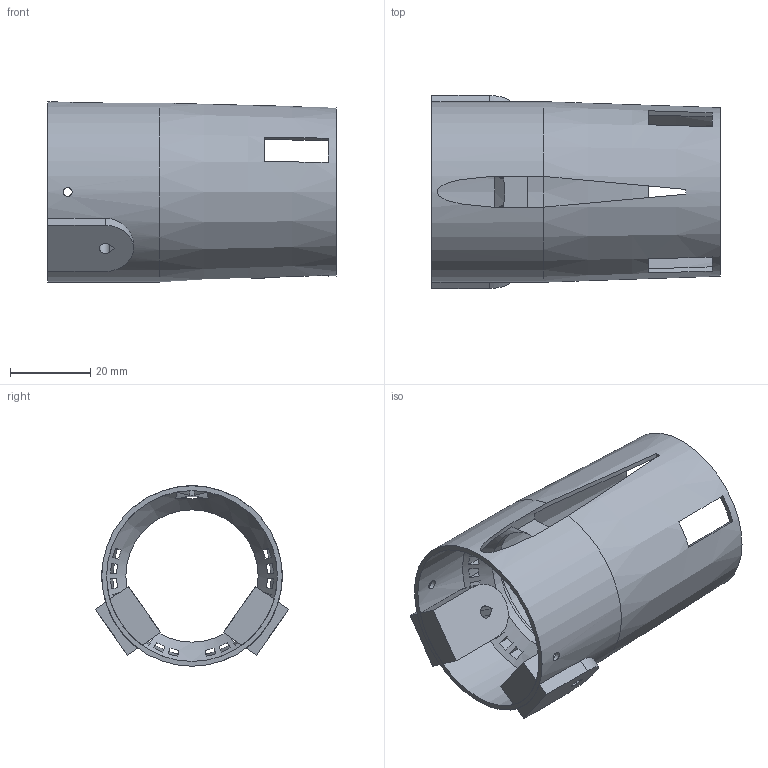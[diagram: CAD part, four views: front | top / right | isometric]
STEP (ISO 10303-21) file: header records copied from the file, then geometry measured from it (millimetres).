
FILE_DESCRIPTION(('Open CASCADE Model'),'2;1');
FILE_NAME('Open CASCADE Shape Model','2026-10-04T08:08:21',('Author'),( 'Open CASCADE'),'Open CASCADE STEP processor 7.9','Open CASCADE 7.9' ,'Unknown');
FILE_SCHEMA(('AUTOMOTIVE_DESIGN { 1 0 10303 214 1 1 1 1 }'));
Length unit declared in the file: millimetre
Products named in the file (1): Open CASCADE STEP translator 7.9 11
Bounding box: 72 x 48.17 x 45 mm (x, y, z)
Volume: 17925.6 mm3; surface area: 21094.8 mm2
Topology: 1 solids, 1 shells, 120 faces, 366 edges, 243 vertices
Faces by surface type: plane 69, cylinder 46, cone 3, bspline 2
Full cylindrical faces by diameter (mm): 2.2 x2, 33 x1, 42.6 x1, 45 x1
Entity records: 14067 total; most frequent: CARTESIAN_POINT 7468, DIRECTION 1003, ORIENTED_EDGE 732, PCURVE 732, DEFINITIONAL_REPRESENTATION 732, LINE 451, VECTOR 451, B_SPLINE_CURVE_WITH_KNOTS 440
